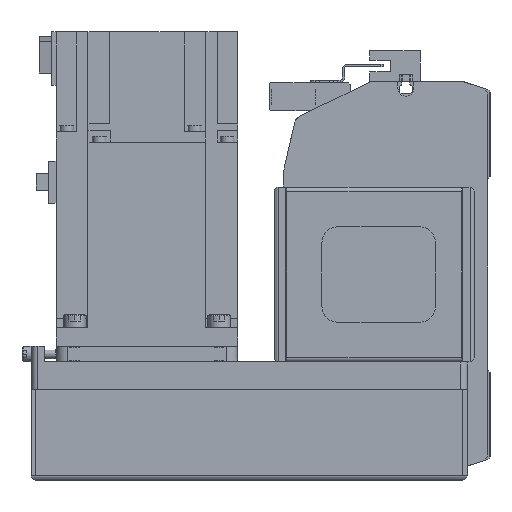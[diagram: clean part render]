
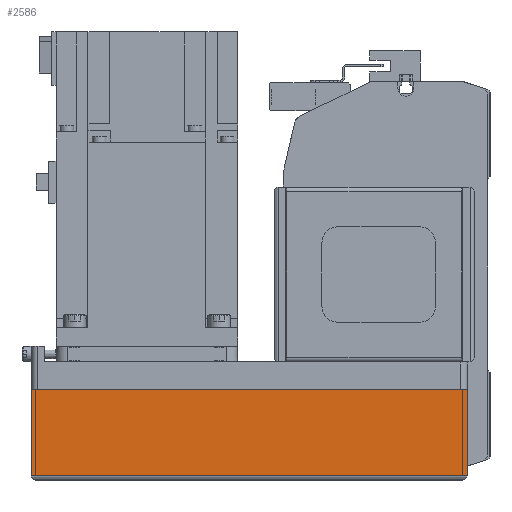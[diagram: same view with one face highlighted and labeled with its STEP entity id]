
A CAD part, left-side view. The second image highlights one B-rep face of the part: STEP entity #2586.
In plain terms, the highlighted planar face has unit normal (-1, 0, 0) as drawn and (0, -1, 0) by its records, which use the part's own axes.
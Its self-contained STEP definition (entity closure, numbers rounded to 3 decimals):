
#2586 = ADVANCED_FACE( '', ( #5651 ), #5652, .T. );
#5651 = FACE_OUTER_BOUND( '', #9145, .T. );
#5652 = PLANE( '', #9146 );
#9145 = EDGE_LOOP( '', ( #16432, #16433, #16434, #16435 ) );
#9146 = AXIS2_PLACEMENT_3D( '', #16436, #16437, #16438 );
#16432 = ORIENTED_EDGE( '', *, *, #22027, .F. );
#16433 = ORIENTED_EDGE( '', *, *, #22645, .F. );
#16434 = ORIENTED_EDGE( '', *, *, #22656, .T. );
#16435 = ORIENTED_EDGE( '', *, *, #22409, .T. );
#16436 = CARTESIAN_POINT( '', ( -192., -40., -12.1 ) );
#16437 = DIRECTION( '', ( 0., -1., 0. ) );
#16438 = DIRECTION( '', ( 0., 0., -1. ) );
#22027 = EDGE_CURVE( '', #25981, #23507, #27133, .T. );
#22409 = EDGE_CURVE( '', #24821, #23507, #27643, .T. );
#22645 = EDGE_CURVE( '', #25641, #25981, #27946, .T. );
#22656 = EDGE_CURVE( '', #25641, #24821, #27960, .T. );
#23507 = VERTEX_POINT( '', #28968 );
#24821 = VERTEX_POINT( '', #30775 );
#25641 = VERTEX_POINT( '', #32095 );
#25981 = VERTEX_POINT( '', #32575 );
#27133 = LINE( '', #34480, #34481 );
#27643 = LINE( '', #35274, #35275 );
#27946 = LINE( '', #35762, #35763 );
#27960 = LINE( '', #35780, #35781 );
#28968 = CARTESIAN_POINT( '', ( 0., -40., -50. ) );
#30775 = CARTESIAN_POINT( '', ( -192., -40., -50. ) );
#32095 = CARTESIAN_POINT( '', ( -192., -40., -12.1 ) );
#32575 = CARTESIAN_POINT( '', ( 0., -40., -12.1 ) );
#34480 = CARTESIAN_POINT( '', ( 0., -40., -12.1 ) );
#34481 = VECTOR( '', #39897, 1000. );
#35274 = CARTESIAN_POINT( '', ( -192., -40., -50. ) );
#35275 = VECTOR( '', #40322, 1000. );
#35762 = CARTESIAN_POINT( '', ( -192., -40., -12.1 ) );
#35763 = VECTOR( '', #40549, 1000. );
#35780 = CARTESIAN_POINT( '', ( -192., -40., -12.1 ) );
#35781 = VECTOR( '', #40562, 1000. );
#39897 = DIRECTION( '', ( 0., 0., -1. ) );
#40322 = DIRECTION( '', ( 1., 0., 0. ) );
#40549 = DIRECTION( '', ( 1., 0., 0. ) );
#40562 = DIRECTION( '', ( 0., 0., -1. ) );
